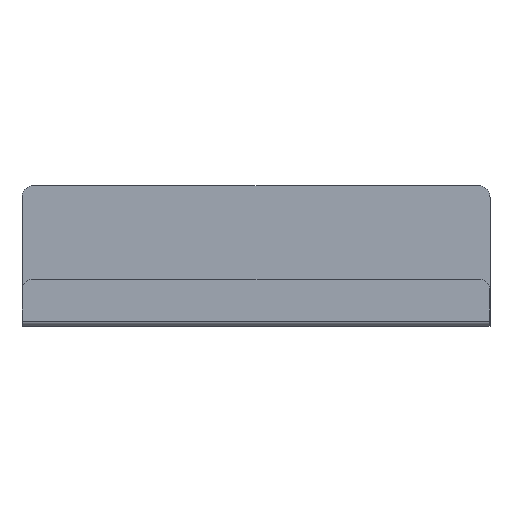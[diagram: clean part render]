
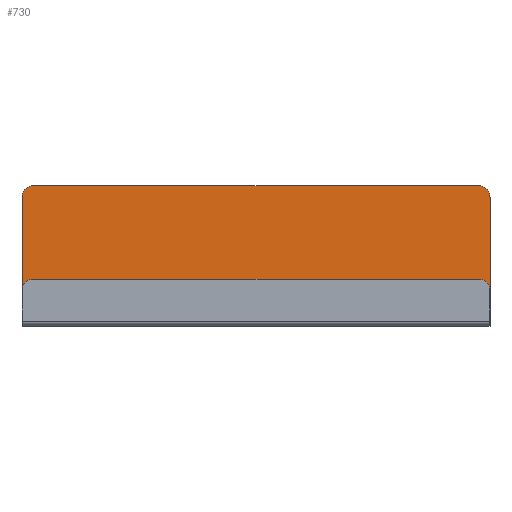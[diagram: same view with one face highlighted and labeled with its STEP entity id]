
A CAD part, top view. The second image highlights one B-rep face of the part: STEP entity #730.
In plain terms, the highlighted planar face has unit normal (0, 0, 1).
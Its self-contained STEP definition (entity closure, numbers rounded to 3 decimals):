
#7 = VERTEX_POINT ( 'NONE', #332 ) ;
#35 = DIRECTION ( 'NONE',  ( -1., 0., 0. ) ) ;
#64 = DIRECTION ( 'NONE',  ( 0., 0., 1. ) ) ;
#82 = EDGE_CURVE ( 'NONE', #7, #379, #968, .T. ) ;
#88 = PLANE ( 'NONE',  #843 ) ;
#161 = ORIENTED_EDGE ( 'NONE', *, *, #530, .T. ) ;
#192 = LINE ( 'NONE', #1253, #219 ) ;
#219 = VECTOR ( 'NONE', #716, 1000. ) ;
#224 = AXIS2_PLACEMENT_3D ( 'NONE', #908, #1329, #1038 ) ;
#240 = EDGE_CURVE ( 'NONE', #7, #1066, #192, .T. ) ;
#261 = CARTESIAN_POINT ( 'NONE',  ( -95., 25., 0. ) ) ;
#300 = ORIENTED_EDGE ( 'NONE', *, *, #514, .T. ) ;
#332 = CARTESIAN_POINT ( 'NONE',  ( 100., -28., 0. ) ) ;
#360 = EDGE_CURVE ( 'NONE', #379, #1072, #818, .T. ) ;
#366 = VECTOR ( 'NONE', #35, 1000. ) ;
#379 = VERTEX_POINT ( 'NONE', #606 ) ;
#389 = EDGE_CURVE ( 'NONE', #1347, #1066, #1344, .T. ) ;
#405 = CARTESIAN_POINT ( 'NONE',  ( -100., -30., 0. ) ) ;
#410 = CARTESIAN_POINT ( 'NONE',  ( 0., 0., 0. ) ) ;
#417 = DIRECTION ( 'NONE',  ( 1., 0., 0. ) ) ;
#464 = CARTESIAN_POINT ( 'NONE',  ( -100., 25., 0. ) ) ;
#465 = ORIENTED_EDGE ( 'NONE', *, *, #360, .T. ) ;
#496 = ORIENTED_EDGE ( 'NONE', *, *, #240, .F. ) ;
#512 = DIRECTION ( 'NONE',  ( 0., 0., 1. ) ) ;
#514 = EDGE_CURVE ( 'NONE', #970, #1347, #1210, .T. ) ;
#530 = EDGE_CURVE ( 'NONE', #1072, #970, #1007, .T. ) ;
#531 = CARTESIAN_POINT ( 'NONE',  ( -95., 30., 0. ) ) ;
#533 = DIRECTION ( 'NONE',  ( 0., -1., 0. ) ) ;
#555 = CARTESIAN_POINT ( 'NONE',  ( 95., 30., 0. ) ) ;
#606 = CARTESIAN_POINT ( 'NONE',  ( 100., 25., 0. ) ) ;
#617 = AXIS2_PLACEMENT_3D ( 'NONE', #261, #64, #661 ) ;
#661 = DIRECTION ( 'NONE',  ( 1., 0., 0. ) ) ;
#716 = DIRECTION ( 'NONE',  ( -1., 0., 0. ) ) ;
#730 = ADVANCED_FACE ( 'NONE', ( #1037 ), #88, .T. ) ;
#734 = CARTESIAN_POINT ( 'NONE',  ( 100., -30., 0. ) ) ;
#793 = EDGE_LOOP ( 'NONE', ( #840, #465, #161, #300, #1193, #496 ) ) ;
#818 = CIRCLE ( 'NONE', #224, 5. ) ;
#840 = ORIENTED_EDGE ( 'NONE', *, *, #82, .T. ) ;
#843 = AXIS2_PLACEMENT_3D ( 'NONE', #410, #512, #417 ) ;
#908 = CARTESIAN_POINT ( 'NONE',  ( 95., 25., 0. ) ) ;
#968 = LINE ( 'NONE', #734, #1221 ) ;
#970 = VERTEX_POINT ( 'NONE', #531 ) ;
#1007 = LINE ( 'NONE', #1209, #366 ) ;
#1037 = FACE_OUTER_BOUND ( 'NONE', #793, .T. ) ;
#1038 = DIRECTION ( 'NONE',  ( 1., 0., 0. ) ) ;
#1066 = VERTEX_POINT ( 'NONE', #1313 ) ;
#1072 = VERTEX_POINT ( 'NONE', #555 ) ;
#1177 = DIRECTION ( 'NONE',  ( 0., 1., 0. ) ) ;
#1193 = ORIENTED_EDGE ( 'NONE', *, *, #389, .T. ) ;
#1209 = CARTESIAN_POINT ( 'NONE',  ( 100., 30., 0. ) ) ;
#1210 = CIRCLE ( 'NONE', #617, 5. ) ;
#1221 = VECTOR ( 'NONE', #1177, 1000. ) ;
#1253 = CARTESIAN_POINT ( 'NONE',  ( 100., -28., 0. ) ) ;
#1313 = CARTESIAN_POINT ( 'NONE',  ( -100., -28., 0. ) ) ;
#1329 = DIRECTION ( 'NONE',  ( 0., 0., 1. ) ) ;
#1344 = LINE ( 'NONE', #405, #1349 ) ;
#1347 = VERTEX_POINT ( 'NONE', #464 ) ;
#1349 = VECTOR ( 'NONE', #533, 1000. ) ;
